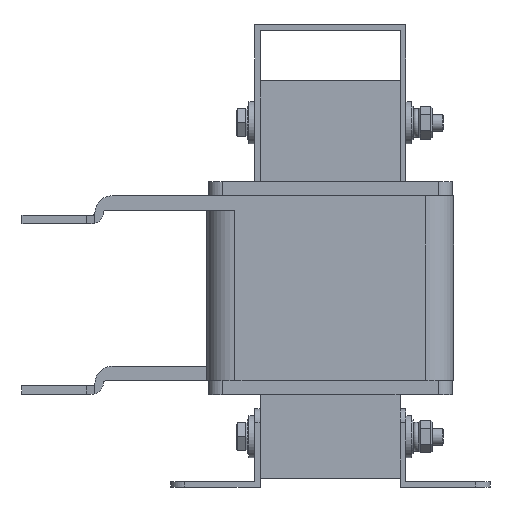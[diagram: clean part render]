
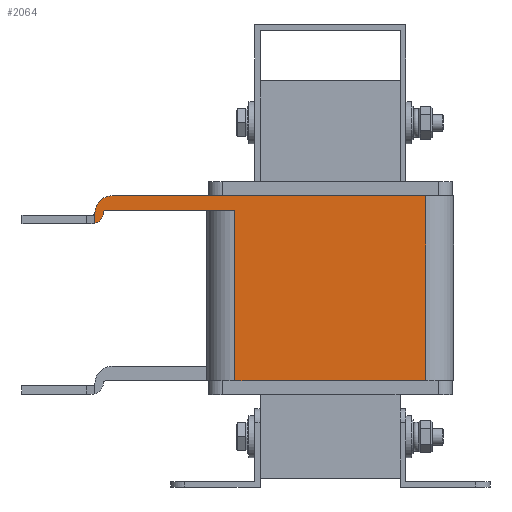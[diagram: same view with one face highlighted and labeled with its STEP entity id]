
A CAD part, left-side view. The second image highlights one B-rep face of the part: STEP entity #2064.
In plain terms, the highlighted planar face has unit normal (-1, 0, 0).
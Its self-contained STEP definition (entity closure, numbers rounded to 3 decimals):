
#2064=ADVANCED_FACE('',(#2550),#2552,.T.);
#2550=FACE_BOUND('',#2551,.T.);
#2551=EDGE_LOOP('',(#3707,#3708,#3709,#3710,#3711,#3712,#3713,#3714,#3715,#3716,
#3717));
#2552=PLANE('',#2553);
#2553=AXIS2_PLACEMENT_3D('',#2554,#2555,#2556);
#2554=CARTESIAN_POINT('',(-32.5,34.,0.));
#2555=DIRECTION('',(-1.,0.,0.));
#2556=DIRECTION('',(0.,-1.,0.));
#3707=ORIENTED_EDGE('',*,*,#4345,.F.);
#3708=ORIENTED_EDGE('',*,*,#4346,.F.);
#3709=ORIENTED_EDGE('',*,*,#4347,.F.);
#3710=ORIENTED_EDGE('',*,*,#4348,.F.);
#3711=ORIENTED_EDGE('',*,*,#4349,.F.);
#3712=ORIENTED_EDGE('',*,*,#4350,.F.);
#3713=ORIENTED_EDGE('',*,*,#4351,.F.);
#3714=ORIENTED_EDGE('',*,*,#4352,.F.);
#3715=ORIENTED_EDGE('',*,*,#4353,.T.);
#3716=ORIENTED_EDGE('',*,*,#4354,.T.);
#3717=ORIENTED_EDGE('',*,*,#4355,.F.);
#4345=EDGE_CURVE('',#4810,#4811,#4812,.F.);
#4346=EDGE_CURVE('',#4813,#4810,#4814,.F.);
#4347=EDGE_CURVE('',#4815,#4813,#4816,.T.);
#4348=EDGE_CURVE('',#4817,#4815,#4818,.T.);
#4349=EDGE_CURVE('',#4819,#4817,#4820,.T.);
#4350=EDGE_CURVE('',#4821,#4819,#4822,.F.);
#4351=EDGE_CURVE('',#4823,#4821,#4824,.T.);
#4352=EDGE_CURVE('',#4825,#4823,#4826,.T.);
#4353=EDGE_CURVE('',#4825,#4827,#4828,.T.);
#4354=EDGE_CURVE('',#4827,#4829,#4830,.T.);
#4355=EDGE_CURVE('',#4811,#4829,#4831,.T.);
#4810=VERTEX_POINT('',#5730);
#4811=VERTEX_POINT('',#5731);
#4812=CIRCLE('',#5732,6.2);
#4813=VERTEX_POINT('',#5736);
#4814=CIRCLE('',#5737,1.);
#4815=VERTEX_POINT('',#5741);
#4816=LINE('',#5742,#5743);
#4817=VERTEX_POINT('',#5745);
#4818=LINE('',#5746,#5747);
#4819=VERTEX_POINT('',#5749);
#4820=CIRCLE('',#5750,4.);
#4821=VERTEX_POINT('',#5754);
#4822=CIRCLE('',#5755,1.);
#4823=VERTEX_POINT('',#5759);
#4824=LINE('',#5760,#5761);
#4825=VERTEX_POINT('',#5763);
#4826=LINE('',#5764,#5765);
#4827=VERTEX_POINT('',#5767);
#4828=LINE('',#5768,#5769);
#4829=VERTEX_POINT('',#5771);
#4830=LINE('',#5772,#5773);
#4831=LINE('',#5775,#5776);
#5730=CARTESIAN_POINT('',(-32.5,84.,59.972));
#5731=CARTESIAN_POINT('',(-32.5,77.803,66.));
#5732=AXIS2_PLACEMENT_3D('',#5733,#5734,#5735);
#5733=CARTESIAN_POINT('',(-32.5,77.803,59.8));
#5734=DIRECTION('',(-1.,0.,0.));
#5735=DIRECTION('',(0.,0.,1.));
#5736=CARTESIAN_POINT('',(-32.5,85.,59.));
#5737=AXIS2_PLACEMENT_3D('',#5738,#5739,#5740);
#5738=CARTESIAN_POINT('',(-32.5,85.,60.));
#5739=DIRECTION('',(1.,0.,0.));
#5740=DIRECTION('',(0.,-1.,-0.028));
#5741=CARTESIAN_POINT('',(-32.5,84.123,59.));
#5742=CARTESIAN_POINT('',(-32.5,84.123,59.));
#5743=VECTOR('',#5744,1.);
#5744=DIRECTION('',(0.,1.,0.));
#5745=CARTESIAN_POINT('',(-32.5,84.123,56.096));
#5746=CARTESIAN_POINT('',(-32.5,84.123,56.096));
#5747=VECTOR('',#5748,1.);
#5748=DIRECTION('',(0.,0.,1.));
#5749=CARTESIAN_POINT('',(-32.5,80.999,59.84));
#5750=AXIS2_PLACEMENT_3D('',#5751,#5752,#5753);
#5751=CARTESIAN_POINT('',(-32.5,84.996,60.));
#5752=DIRECTION('',(1.,0.,0.));
#5753=DIRECTION('',(0.,-0.999,-0.04));
#5754=CARTESIAN_POINT('',(-32.5,80.,60.8));
#5755=AXIS2_PLACEMENT_3D('',#5756,#5757,#5758);
#5756=CARTESIAN_POINT('',(-32.5,80.,59.8));
#5757=DIRECTION('',(1.,0.,0.));
#5758=DIRECTION('',(0.,0.999,0.04));
#5759=CARTESIAN_POINT('',(-32.5,34.,60.8));
#5760=CARTESIAN_POINT('',(-32.5,34.,60.8));
#5761=VECTOR('',#5762,1.);
#5762=DIRECTION('',(0.,1.,0.));
#5763=CARTESIAN_POINT('',(-32.5,34.,0.));
#5764=CARTESIAN_POINT('',(-32.5,34.,0.));
#5765=VECTOR('',#5766,1.);
#5766=DIRECTION('',(0.,0.,1.));
#5767=CARTESIAN_POINT('',(-32.5,-34.,0.));
#5768=CARTESIAN_POINT('',(-32.5,34.,0.));
#5769=VECTOR('',#5770,1.);
#5770=DIRECTION('',(0.,-1.,0.));
#5771=CARTESIAN_POINT('',(-32.5,-34.,66.));
#5772=CARTESIAN_POINT('',(-32.5,-34.,0.));
#5773=VECTOR('',#5774,1.);
#5774=DIRECTION('',(0.,0.,1.));
#5775=CARTESIAN_POINT('',(-32.5,77.803,66.));
#5776=VECTOR('',#5777,1.);
#5777=DIRECTION('',(0.,-1.,0.));
